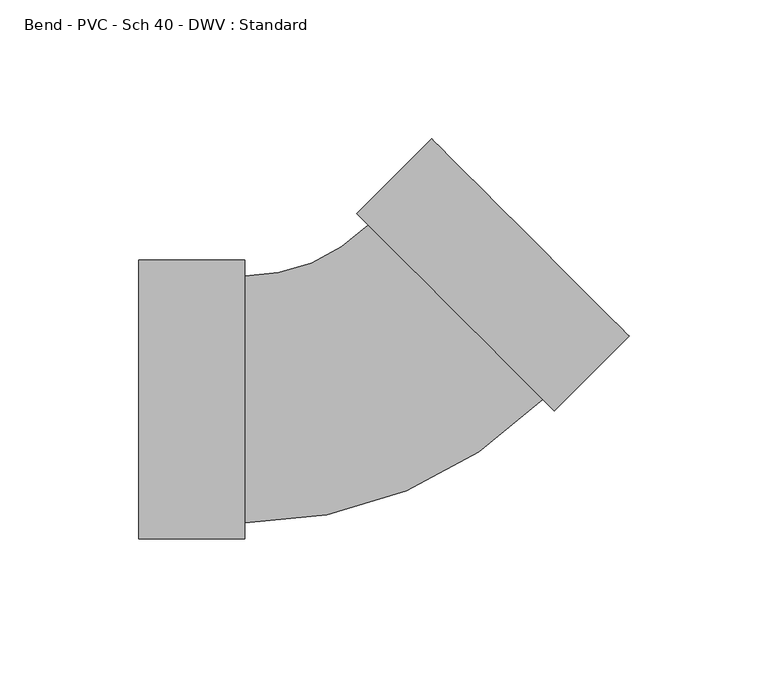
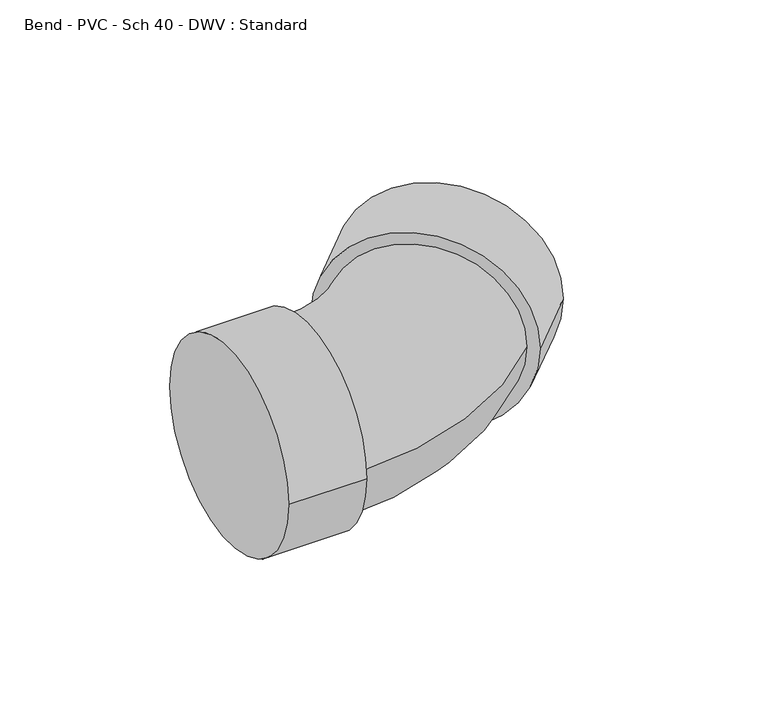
"""IFC4 building model written with IfcOpenShell, lengths in millimetres: pipe fitting geometry, Bend - PVC - Sch 40 - DWV : Standard."""

from ifc_helpers import new_model, si_unit, point, frame, origin, place, context, project, spatial, circle_curve, ellipse_curve, trimmed, source, transform, mapped, element, save
from ifc_brep_helpers import plane_surface, cylinder_surface, revolved_surface, advanced_brep


def bend_pvc_sch_40_dwv_standard_a0c8f803(model_context):
    return source(origin(), model_context, "Body", "AdvancedBrep", [
        advanced_brep(
        [(-82.55, -50.2666, 0.0), (-82.55, 50.2666, 0.0), (-44.45, -50.2666, 0.0), (-44.45, 50.2666, 0.0), (-44.45, -44.45, 0.0), (-44.45, 44.45, 0.0), (0.0027555, 62.8617928, 0.0), (62.8617928, -0.0027555, 0.0), (66.9745698, -4.1158931, 0.0), (-4.1100215, 66.9749304, 0.0), (93.9165191, 22.8236943, 0.0), (22.8319277, 93.9145178, 0.0)],
        [
            (0, 1, circle_curve(frame((-82.55, 0.0, 0.0), z_axis=(-1.0, 0.0, 0.0), x_axis=(0.0, 1.0, 0.0)), 50.2666)),
            (1, 0, circle_curve(frame((-82.55, 0.0, 0.0), z_axis=(-1.0, 0.0, 0.0), x_axis=(0.0, 1.0, 0.0)), 50.2666)),
            (2, 3, circle_curve(frame((-44.45, 0.0, 0.0), z_axis=(1.0, 0.0, 0.0), x_axis=(0.0, 1.0, 0.0)), 50.2666)),
            (3, 2, circle_curve(frame((-44.45, 0.0, 0.0), z_axis=(1.0, 0.0, 0.0), x_axis=(0.0, 1.0, 0.0)), 50.2666)),
            (4, 5, circle_curve(frame((-44.45, 0.0, 0.0), z_axis=(-1.0, 0.0, 0.0), x_axis=(0.0, 1.0, 0.0)), 44.45)),
            (5, 4, circle_curve(frame((-44.45, 0.0, 0.0), z_axis=(-1.0, 0.0, 0.0), x_axis=(0.0, 1.0, 0.0)), 44.45)),
            (0, 2),
            (3, 1),
            (6, 5, circle_curve(frame((-44.45, 107.3184455, 0.0), z_axis=(0.0, 0.0, -1.0), x_axis=(0.0, -1.0, 0.0)), 62.8684455)),
            (4, 7, circle_curve(frame((-44.45, 107.3184455, 0.0), z_axis=(0.0, 0.0, 1.0), x_axis=(0.0, -1.0, 0.0)), 151.7684455)),
            (7, 6, circle_curve(frame((31.4322741, 31.4295186, 0.0), z_axis=(-0.7071377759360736, -0.707075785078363, 0.0), x_axis=(-0.707075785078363, 0.7071377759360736, 0.0)), 44.45)),
            (6, 7, circle_curve(frame((31.4322741, 31.4295186, 0.0), z_axis=(-0.7071377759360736, -0.707075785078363, 0.0), x_axis=(-0.707075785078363, 0.7071377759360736, 0.0)), 44.45)),
            (8, 9, circle_curve(frame((31.4322741, 31.4295186, 0.0), z_axis=(-0.7071377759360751, -0.7070757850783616, 0.0), x_axis=(-0.7070757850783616, 0.7071377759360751, 0.0)), 50.2666)),
            (9, 8, circle_curve(frame((31.4322741, 31.4295186, 0.0), z_axis=(-0.7071377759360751, -0.7070757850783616, 0.0), x_axis=(-0.7070757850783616, 0.7071377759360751, 0.0)), 50.2666)),
            (10, 11, circle_curve(frame((58.3742234, 58.3691061, 0.0), z_axis=(0.7071377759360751, 0.7070757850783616, 0.0), x_axis=(-0.7070757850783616, 0.7071377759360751, 0.0)), 50.2666)),
            (11, 10, circle_curve(frame((58.3742234, 58.3691061, 0.0), z_axis=(0.7071377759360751, 0.7070757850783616, 0.0), x_axis=(-0.7070757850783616, 0.7071377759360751, 0.0)), 50.2666)),
            (8, 10),
            (11, 9),
        ],
        [
            plane_surface(frame((-82.55, 0.0, 0.0), z_axis=(-1.0, 0.0, 0.0), x_axis=(0.0, 0.0, 1.0))),
            plane_surface(frame((-44.45, 0.0, 0.0), z_axis=(1.0, 0.0, 0.0), x_axis=(0.0, 0.0, 1.0))),
            cylinder_surface(frame((-82.55, 0.0, 0.0), z_axis=(-1.0, 0.0, 0.0), x_axis=(0.0, 1.0, 0.0)), 50.2666),
            revolved_surface(trimmed(ellipse_curve(frame((-44.45, 0.0, 0.0), z_axis=(-1.0, 0.0, 0.0), x_axis=(0.0, 1.0, 0.0)), 44.45, 44.45), [point((-44.45, -44.45, 0.0))], [point((-44.45, 44.45, 0.0))], True, "CARTESIAN"), (-44.45, 107.3184455, 0.0), (0.0, 0.0, 1.0)),
            revolved_surface(trimmed(ellipse_curve(frame((-44.45, 0.0, 0.0), z_axis=(-1.0, 0.0, 0.0), x_axis=(0.0, 1.0, 0.0)), 44.45, 44.45), [point((-44.45, 44.45, 0.0))], [point((-44.45, -44.45, 0.0))], True, "CARTESIAN"), (-44.45, 107.3184455, 0.0), (0.0, 0.0, 1.0)),
            plane_surface(frame((31.4322741, 31.4295186, 0.0), z_axis=(-0.7071377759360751, -0.7070757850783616, 0.0), x_axis=(0.0, 0.0, 1.0))),
            plane_surface(frame((58.3742234, 58.3691061, 0.0), z_axis=(0.7071377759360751, 0.7070757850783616, 0.0), x_axis=(0.0, 0.0, 1.0))),
            cylinder_surface(frame((31.4322741, 31.4295186, 0.0), z_axis=(-0.7071377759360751, -0.7070757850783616, 0.0), x_axis=(-0.7070757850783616, 0.7071377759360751, 0.0)), 50.2666),
        ],
        [
            (0, [[1, 2]]),
            (1, [[3, 4], [5, 6]]),
            (2, [[-1, 7, -4, 8]]),
            (2, [[-2, -8, -3, -7]]),
            (3, [[9, -5, 10, 11]]),
            (4, [[-9, 12, -10, -6]]),
            (5, [[13, 14], [-11, -12]]),
            (6, [[15, 16]]),
            (7, [[-13, 17, -16, 18]]),
            (7, [[-14, -18, -15, -17]]),
        ],
    ),
    ])


if __name__ == "__main__":
    model = new_model("IFC4")
    model_context = context("Model", 3, world=origin())
    ifc_project = project(units=[si_unit("LENGTHUNIT", "METRE", prefix="MILLI")], contexts=[model_context])
    site = spatial("IfcSite", under=ifc_project)
    building = spatial("IfcBuilding", under=site)
    placement = place(None, origin())
    bend_pvc_sch_40_dwv_standard_shape = bend_pvc_sch_40_dwv_standard_a0c8f803(model_context)
    element("IfcPipeFitting", 1, ObjectType="Bend - PVC - Sch 40 - DWV : Standard", at=placement, inside=building, context=model_context, shape_type="MappedRepresentation", body=[
        mapped(bend_pvc_sch_40_dwv_standard_shape, transform((0.0, 0.0, 0.0), x_axis=(1.0, 0.0, 0.0), y_axis=(0.0, 1.0, 0.0), z_axis=(0.0, 0.0, 1.0))),
    ])
    save(model, "model.ifc")
